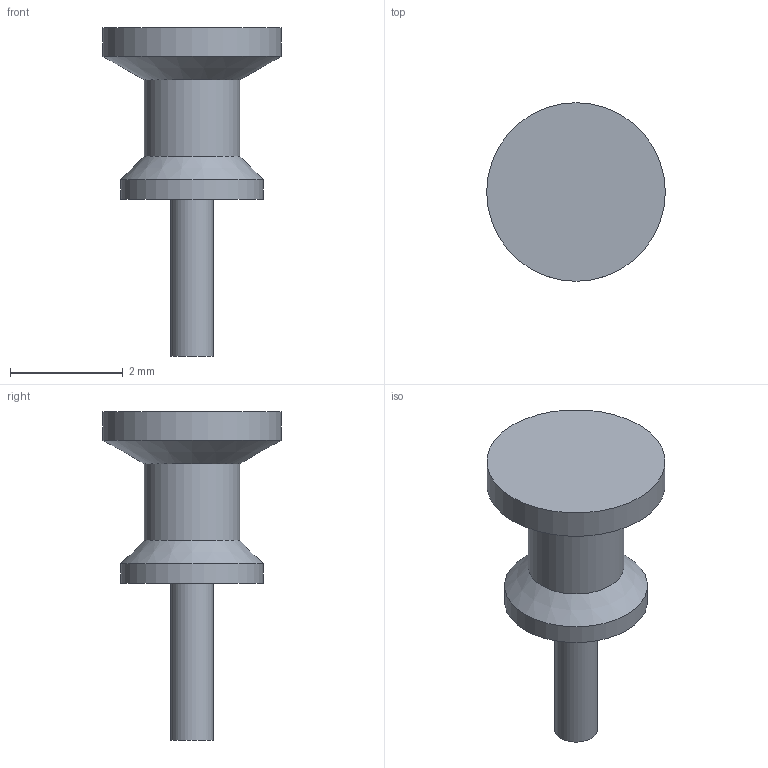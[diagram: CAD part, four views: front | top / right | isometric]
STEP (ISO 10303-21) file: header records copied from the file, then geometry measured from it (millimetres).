
FILE_DESCRIPTION(('Open CASCADE Model'),'2;1');
FILE_NAME('Open CASCADE Shape Model','2026-10-14T21:49:17',('Author'),( 'Open CASCADE'),'Open CASCADE STEP processor 7.9','Open CASCADE 7.9' ,'Unknown');
FILE_SCHEMA(('AUTOMOTIVE_DESIGN { 1 0 10303 214 1 1 1 1 }'));
Length unit declared in the file: millimetre
Products named in the file (1): Open CASCADE STEP translator 7.9 6
Bounding box: 3.17 x 3.17 x 5.84 mm (x, y, z)
Volume: 13.6 mm3; surface area: 45.2 mm2
Topology: 1 solids, 1 shells, 9 faces, 14 edges, 8 vertices
Faces by surface type: cylinder 4, plane 3, cone 2
Full cylindrical faces by diameter (mm): 0.762 x1, 1.702 x1, 2.54 x1, 3.175 x1
Entity records: 396 total; most frequent: DIRECTION 70, CARTESIAN_POINT 60, LINE 30, VECTOR 30, ORIENTED_EDGE 28, PCURVE 28, DEFINITIONAL_REPRESENTATION 28, AXIS2_PLACEMENT_3D 18
